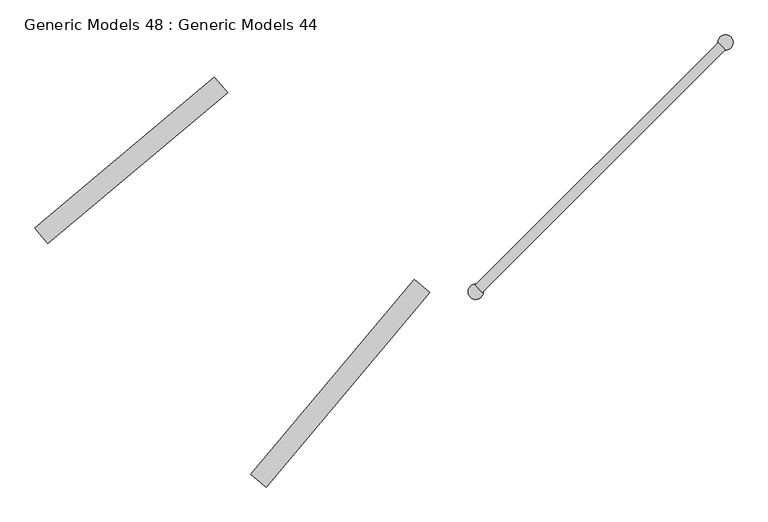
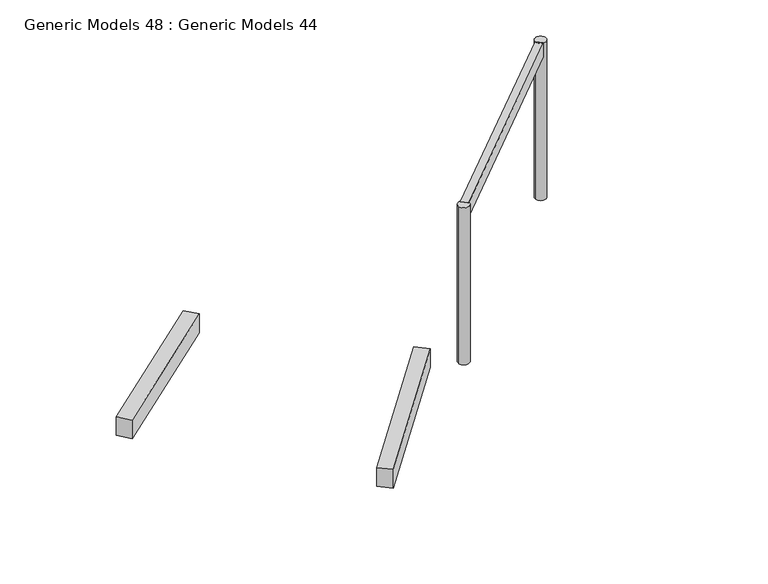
"""IFC4 building model written with IfcOpenShell, lengths in millimetres: proxy geometry, Generic Models 48 : Generic Models 44."""

from ifc_helpers import new_model, si_unit, point, frame, frame_2d, origin, place, context, project, spatial, polyline, circle_curve, trimmed, segment, composite_curve, outline, extrude, source, transform, mapped, element, save


def generic_models_48_generic_models_44_31df5928(model_context):
    return source(origin(), model_context, "Body", "SweptSolid", [
        extrude(outline(polyline([(-115980.7935664, -35737.0994253), (-116134.002455, -35608.5419033), (-114522.9751024, -33688.5942681), (-114369.7662138, -33817.1517901), (-115980.7935664, -35737.0994253)])), frame((0.0, 0.0, 42770.0), z_axis=(0.0, 0.0, 1.0), x_axis=(1.0, 0.0, 0.0)), (0.0, 0.0, 1.0), 268.5053554),
        extrude(outline(polyline([(-118129.820408, -33333.9533005), (-118258.3779299, -33180.7444118), (-116490.0102554, -31696.9077484), (-116361.4527335, -31850.116637), (-118129.820408, -33333.9533005)])), frame((0.0, 0.0, 42770.0), z_axis=(0.0, 0.0, 1.0), x_axis=(1.0, 0.0, 0.0)), (0.0, 0.0, 1.0), 268.5053554),
        extrude(outline(polyline([(-113851.9838886, -33817.7796088), (-113922.6945667, -33747.0689307), (-111529.9795292, -31354.3538932), (-111459.2688511, -31425.0645713), (-113851.9838886, -33817.7796088)])), frame((0.0, 0.0, 44746.1646464), z_axis=(0.0, 0.0, 1.0), x_axis=(1.0, 0.0, 0.0)), (0.0, 0.0, 1.0), 195.4634247),
        extrude(outline(composite_curve([segment(trimmed(circle_curve(frame_2d((-113917.0510901, -33810.9678051)), 75.0), [point((-113992.0510901, -33810.9678051))], [point((-113842.0510901, -33810.9678051))], False, "CARTESIAN"), True, "CONTINUOUS"), segment(trimmed(circle_curve(frame_2d((-113917.0510901, -33810.9678051)), 75.0), [point((-113842.0510901, -33810.9678051))], [point((-113992.0510901, -33810.9678051))], False, "CARTESIAN"), True, "CONTINUOUS")], self_intersect=False)), frame((0.0, 0.0, 42695.9057084), z_axis=(0.0, 0.0, 1.0), x_axis=(1.0, 0.0, 0.0)), (0.0, 0.0, 1.0), 2245.7223627),
        extrude(outline(composite_curve([segment(trimmed(circle_curve(frame_2d((-111456.8623608, -31353.5552475)), 75.0), [point((-111531.8623608, -31353.5552475))], [point((-111381.8623608, -31353.5552475))], False, "CARTESIAN"), True, "CONTINUOUS"), segment(trimmed(circle_curve(frame_2d((-111456.8623608, -31353.5552475)), 75.0), [point((-111381.8623608, -31353.5552475))], [point((-111531.8623608, -31353.5552475))], False, "CARTESIAN"), True, "CONTINUOUS")], self_intersect=False)), frame((0.0, 0.0, 42695.9057084), z_axis=(0.0, 0.0, 1.0), x_axis=(1.0, 0.0, 0.0)), (0.0, 0.0, 1.0), 2245.7223627),
    ])


if __name__ == "__main__":
    model = new_model("IFC4")
    model_context = context("Model", 3, world=origin())
    ifc_project = project(units=[si_unit("LENGTHUNIT", "METRE", prefix="MILLI")], contexts=[model_context])
    site = spatial("IfcSite", under=ifc_project)
    building = spatial("IfcBuilding", under=site)
    placement = place(None, origin())
    generic_models_48_generic_models_44_shape = generic_models_48_generic_models_44_31df5928(model_context)
    element("IfcBuildingElementProxy", 1, Name="Generic Models 48 : Generic Models 44", ObjectType="Generic Models 48 : Generic Models 44", at=placement, inside=building, context=model_context, shape_type="MappedRepresentation", body=[
        mapped(generic_models_48_generic_models_44_shape, transform((0.0, 0.0, 0.0), x_axis=(1.0, 0.0, 0.0), y_axis=(0.0, 1.0, 0.0), z_axis=(0.0, 0.0, 1.0))),
    ])
    save(model, "model.ifc")
